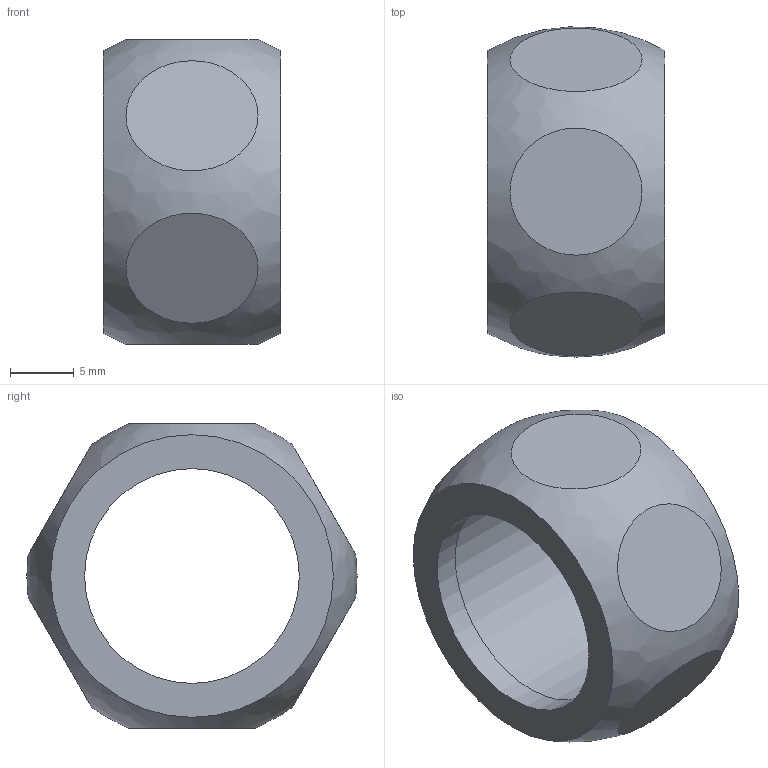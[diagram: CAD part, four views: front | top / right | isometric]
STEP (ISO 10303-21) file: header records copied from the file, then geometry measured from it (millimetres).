
FILE_DESCRIPTION((''),'2;1');
FILE_NAME('\\Lg50001\Groups\SANHA Legnica\Engineering\Public\Pajchrowski\projekty\8000 models\4374\4374 step\14374_12(2).stp','2009-11-06T09:14:21',('pajchrowski'),(''),'Autodesk Inventor 2009','Autodesk Inventor 2009','');
FILE_SCHEMA(('AUTOMOTIVE_DESIGN { 1 0 10303 214 1 1 1 1 }'));
Length unit declared in the file: millimetre
Products named in the file (1): 4374
Bounding box: 14 x 25.99 x 24 mm (x, y, z)
Volume: 2806.5 mm3; surface area: 2259.6 mm2
Topology: 1 solids, 1 shells, 12 faces, 15 edges, 12 vertices
Faces by surface type: plane 9, cylinder 2, bspline 1
Full cylindrical faces by diameter (mm): 16.9 x1, 18.63 x1
Entity records: 1160 total; most frequent: CARTESIAN_POINT 945, DIRECTION 36, ORIENTED_EDGE 24, EDGE_LOOP 24, AXIS2_PLACEMENT_3D 18, VERTEX_POINT 12, EDGE_CURVE 12, FACE_OUTER_BOUND 12
